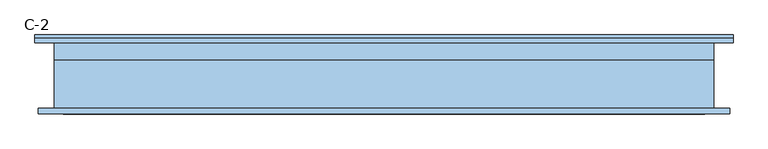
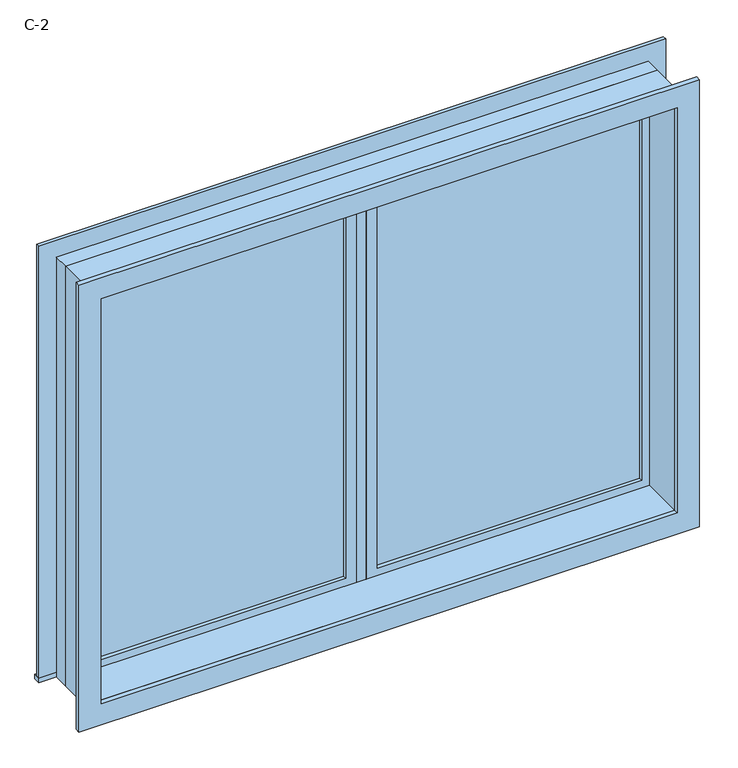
"""IFC4 building model written with IfcOpenShell, lengths in millimetres: window geometry, 双扇平开 - 带贴面 : C-2."""

import ifcopenshell
import ifcopenshell.guid

model = None  # the IFC model being written
_history = None  # IfcOwnerHistory: only IFC2X3 demands one
_inside = {}  # id of a spatial element -> (the spatial element, [elements in it])
_under = {}  # id of a project, library or spatial element -> (it, [spatial elements below it])
_declared = {}  # id of a project -> (the project, [libraries it declares])
_typed = {}  # id of a type object -> (the type object, [elements of that type])
_made_of = {}  # id of a material, layer set ... -> (it, [elements and type objects made of it])


def new_model(schema):
    """Start an empty IFC model of exactly this schema.

    Asked for "IFC4X3", IfcOpenShell would pick the latest addendum, in which some entities
    have other attributes; the version numbers below select the first issue.
    IFC2X3 requires an IfcOwnerHistory on every rooted entity: one is made here for all.
    """
    global model, _history
    if schema == "IFC4X3":
        model = ifcopenshell.file(schema_version=(4, 3, 0, 0))
    else:
        model = ifcopenshell.file(schema=schema)
    _inside.clear()
    _under.clear()
    _declared.clear()
    _typed.clear()
    _made_of.clear()
    _history = None
    if model.schema == "IFC2X3":
        org = make("IfcOrganization", Name="unknown")
        user = make(
            "IfcPersonAndOrganization",
            ThePerson=make("IfcPerson", FamilyName="unknown"),
            TheOrganization=org,
        )
        app = make(
            "IfcApplication",
            ApplicationDeveloper=org,
            Version="unknown",
            ApplicationFullName="unknown",
            ApplicationIdentifier="unknown",
        )
        _history = make(
            "IfcOwnerHistory",
            OwningUser=user,
            OwningApplication=app,
            ChangeAction="ADDED",
            CreationDate=0,
        )
    return model


def make(cls, **values):
    """One entity of the class cls with the attributes given. An attribute that is None is left unset."""
    return model.create_entity(
        cls, **{name: value for name, value in values.items() if value is not None}
    )


def rooted(cls, **values):
    """An entity with a GlobalId (a new one), such as an element, a storey or a relation."""
    return make(cls, GlobalId=ifcopenshell.guid.new(), OwnerHistory=_history, **values)


def si_unit(unit_type, name, prefix=None):
    """IfcSIUnit, for example si_unit("LENGTHUNIT", "METRE", prefix="MILLI")."""
    return make("IfcSIUnit", UnitType=unit_type, Prefix=prefix, Name=name)


def assignment(units):
    """IfcUnitAssignment: the units of a project."""
    return None if units is None else make("IfcUnitAssignment", Units=units)


def point(xyz):
    """IfcCartesianPoint."""
    return None if xyz is None else make("IfcCartesianPoint", Coordinates=xyz)


def direction(xyz):
    """IfcDirection."""
    return None if xyz is None else make("IfcDirection", DirectionRatios=xyz)


def frame(location, z_axis=None, x_axis=None):
    """IfcAxis2Placement3D, a coordinate frame: its origin and axes. An axis left out is left unset."""
    return make(
        "IfcAxis2Placement3D",
        Location=point(location),
        Axis=direction(z_axis),
        RefDirection=direction(x_axis),
    )


def origin():
    """The frame at (0, 0, 0) with its axes left unset."""
    return frame((0.0, 0.0, 0.0))


def place(relative_to, where):
    """IfcLocalPlacement: puts the frame where relative to a parent placement (None: the world)."""
    return make(
        "IfcLocalPlacement", PlacementRelTo=relative_to, RelativePlacement=where
    )


def context(
    kind, dimensions, precision=None, world=None, true_north=None, identifier=None
):
    """IfcGeometricRepresentationContext, for example the 3D "Model" context."""
    return make(
        "IfcGeometricRepresentationContext",
        ContextIdentifier=identifier,
        ContextType=kind,
        CoordinateSpaceDimension=dimensions,
        Precision=precision,
        WorldCoordinateSystem=world,
        TrueNorth=true_north,
    )


def project(units=None, contexts=None):
    """IfcProject with its units and contexts."""
    return rooted(
        "IfcProject",
        Name="project",
        RepresentationContexts=contexts,
        UnitsInContext=assignment(units),
    )


def spatial(cls, under=None, at=None, **own):
    """A site, building, storey or space (cls), placed at a placement, below another one or the project."""
    s = rooted(cls, ObjectPlacement=at, **own)
    if under is not None:
        _under.setdefault(under.id(), (under, []))[1].append(s)
    return s


def polyline(points):
    """IfcPolyline through the points."""
    return make("IfcPolyline", Points=[point(p) for p in points])


def outline(outer, holes=None, kind="AREA"):
    """IfcArbitraryClosedProfileDef: a profile drawn as a closed curve; with holes, ...WithVoids."""
    if holes is None:
        return make("IfcArbitraryClosedProfileDef", ProfileType=kind, OuterCurve=outer)
    return make(
        "IfcArbitraryProfileDefWithVoids",
        ProfileType=kind,
        OuterCurve=outer,
        InnerCurves=holes,
    )


def extrude(swept, where, along, depth):
    """IfcExtrudedAreaSolid: the profile swept, set in the frame where, extruded along a direction by depth."""
    return make(
        "IfcExtrudedAreaSolid",
        SweptArea=swept,
        Position=where,
        ExtrudedDirection=direction(along),
        Depth=depth,
    )


def shape(context_of_items, identifier, shape_type, items):
    """IfcShapeRepresentation: the items that make up one representation, for example the "Body"."""
    return make(
        "IfcShapeRepresentation",
        ContextOfItems=context_of_items,
        RepresentationIdentifier=identifier,
        RepresentationType=shape_type,
        Items=items,
    )


def source(mapping_origin, context_of_items, identifier, shape_type, items):
    """IfcRepresentationMap: a shape defined once, which mapped items show again and again."""
    return make(
        "IfcRepresentationMap",
        MappingOrigin=mapping_origin,
        MappedRepresentation=shape(context_of_items, identifier, shape_type, items),
    )


def transform(
    local_origin,
    x_axis=None,
    y_axis=None,
    z_axis=None,
    scale=None,
    scale2=None,
    scale3=None,
    uniform=True,
):
    """IfcCartesianTransformationOperator3D, or its non-uniform kind. x_axis, y_axis, z_axis: its Axis1, 2, 3."""
    if uniform:
        return make(
            "IfcCartesianTransformationOperator3D",
            Axis1=direction(x_axis),
            Axis2=direction(y_axis),
            LocalOrigin=point(local_origin),
            Scale=scale,
            Axis3=direction(z_axis),
        )
    return make(
        "IfcCartesianTransformationOperator3DnonUniform",
        Axis1=direction(x_axis),
        Axis2=direction(y_axis),
        LocalOrigin=point(local_origin),
        Scale=scale,
        Axis3=direction(z_axis),
        Scale2=scale2,
        Scale3=scale3,
    )


def mapped(mapping_source, mapping_target):
    """IfcMappedItem: shows the shape of a source again, moved by a transform."""
    return make(
        "IfcMappedItem", MappingSource=mapping_source, MappingTarget=mapping_target
    )


def made_of(thing, what):
    """Note that an element or type object is made of a material, layer set ...; save() writes the relation."""
    if what is not None:
        _made_of.setdefault(what.id(), (what, []))[1].append(thing)
    return thing


def element(
    cls,
    number,
    at=None,
    inside=None,
    cuts=None,
    type_object=None,
    material=None,
    context=None,
    identifier="Body",
    shape_type=None,
    held_by="IfcProductDefinitionShape",
    body=None,
    shapes=None,
    **own,
):
    """One element of the class cls, such as IfcWall. Its Tag is "e" and its number.

    at: its placement. inside: the storey or other place that contains it. cuts: it is an
    opening in that element (IfcRelVoidsElement). A single representation is given by context,
    identifier, shape_type and body (its items); several are given by shapes. held_by: the class
    of the entity that holds the representations. save() writes the other relations.
    """
    e = rooted(cls, Tag="e%d" % number, ObjectPlacement=at, **own)
    if body is not None:
        shapes = [shape(context, identifier, shape_type, body)]
    if shapes is not None:
        e.Representation = make(held_by, Representations=shapes)
    if inside is not None:
        _inside.setdefault(inside.id(), (inside, []))[1].append(e)
    if cuts is not None:
        rooted(
            "IfcRelVoidsElement", RelatingBuildingElement=cuts, RelatedOpeningElement=e
        )
    if type_object is not None:
        _typed.setdefault(type_object.id(), (type_object, []))[1].append(e)
    return made_of(e, material)


def aggregate(whole, parts):
    """IfcRelAggregates: a whole, such as a stair, and the parts it consists of."""
    return rooted("IfcRelAggregates", RelatingObject=whole, RelatedObjects=parts)


def save(model, path):
    """Write the relations noted so far, then the file.

    IfcRelAggregates (storeys below a building ...), IfcRelContainedInSpatialStructure (elements
    in a storey), IfcRelDefinesByType, IfcRelAssociatesMaterial and IfcRelDeclares: one each for
    every whole, place, type object, material and project.
    """
    for whole, parts in _under.values():
        aggregate(whole, parts)
    for where, things in _inside.values():
        rooted(
            "IfcRelContainedInSpatialStructure",
            RelatedElements=things,
            RelatingStructure=where,
        )
    for kind, things in _typed.values():
        rooted("IfcRelDefinesByType", RelatedObjects=things, RelatingType=kind)
    for what, things in _made_of.values():
        rooted("IfcRelAssociatesMaterial", RelatedObjects=things, RelatingMaterial=what)
    for by, libraries in _declared.values():
        rooted("IfcRelDeclares", RelatingContext=by, RelatedDefinitions=libraries)
    model.write(path)


def c_2_2cdffc81(model_context):
    return source(origin(), model_context, "Body", "SweptSolid", [
        extrude(outline(polyline([(63.5, 84.125), (1136.5, 84.125), (1136.5, 71.425), (63.5, 71.425), (63.5, 84.125)])), frame((0.0, 0.0, 964.5), z_axis=(0.0, 0.0, 1.0), x_axis=(1.0, 0.0, 0.0)), (0.0, 0.0, 1.0), 1673.0),
        extrude(outline(polyline([(2681.95, 19.05), (920.05, 19.05), (920.05, 1180.95), (2681.95, 1180.95), (2681.95, 19.05)]), holes=[polyline([(2637.5, 63.5), (2637.5, 1136.5), (964.5, 1136.5), (964.5, 63.5), (2637.5, 63.5)])]), frame((0.0, 55.55, 0.0), z_axis=(0.0, 1.0, 0.0), x_axis=(0.0, 0.0, 1.0)), (0.0, 0.0, 1.0), 44.45),
        extrude(outline(polyline([(19.05, 55.55), (-19.05, 55.55), (-19.05, 119.05), (19.05, 119.05), (19.05, 55.55)])), frame((0.0, 0.0, 920.05), z_axis=(0.0, 0.0, 1.0), x_axis=(1.0, 0.0, 0.0)), (0.0, 0.0, 1.0), 1761.9),
        extrude(outline(polyline([(-63.5, 71.425), (-1136.5, 71.425), (-1136.5, 84.125), (-63.5, 84.125), (-63.5, 71.425)])), frame((0.0, 0.0, 964.5), z_axis=(0.0, 0.0, 1.0), x_axis=(1.0, 0.0, 0.0)), (0.0, 0.0, 1.0), 1673.0),
        extrude(outline(polyline([(2681.95, -1180.95), (920.05, -1180.95), (920.05, -19.05), (2681.95, -19.05), (2681.95, -1180.95)]), holes=[polyline([(2637.5, -1136.5), (2637.5, -63.5), (964.5, -63.5), (964.5, -1136.5), (2637.5, -1136.5)])]), frame((0.0, 55.55, 0.0), z_axis=(0.0, 1.0, 0.0), x_axis=(0.0, 0.0, 1.0)), (0.0, 0.0, 1.0), 44.45),
        extrude(outline(polyline([(2701.0, -1200.0), (901.0, -1200.0), (901.0, 1200.0), (2701.0, 1200.0), (2701.0, -1200.0)]), holes=[polyline([(2669.25, -1168.25), (2669.25, 1168.25), (932.75, 1168.25), (932.75, -1168.25), (2669.25, -1168.25)])]), frame((0.0, -120.0, 0.0), z_axis=(0.0, 1.0, 0.0), x_axis=(0.0, 0.0, 1.0)), (0.0, 0.0, 1.0), 175.55),
        extrude(outline(polyline([(2701.0, 1200.0), (2701.0, -1200.0), (901.0, -1200.0), (901.0, 1200.0), (2701.0, 1200.0)]), holes=[polyline([(2681.95, 1180.95), (920.05, 1180.95), (920.05, -1180.95), (2681.95, -1180.95), (2681.95, 1180.95)])]), frame((0.0, 55.55, 0.0), z_axis=(0.0, 1.0, 0.0), x_axis=(0.0, 0.0, 1.0)), (0.0, 0.0, 1.0), 64.45),
        extrude(outline(polyline([(-1270.95, 147.7), (1270.95, 147.7), (1270.95, 120.0), (-1270.95, 120.0), (-1270.95, 147.7)])), frame((0.0, 0.0, 901.0), z_axis=(0.0, 0.0, 1.0), x_axis=(1.0, 0.0, 0.0)), (0.0, 0.0, 1.0), 19.05),
        extrude(outline(polyline([(2681.95, -1180.95), (2681.95, 1180.95), (920.05, 1180.95), (920.05, 1270.95), (2771.95, 1270.95), (2771.95, -1270.95), (920.05, -1270.95), (920.05, -1180.95), (2681.95, -1180.95)])), frame((0.0, 120.0, 0.0), z_axis=(0.0, 1.0, 0.0), x_axis=(0.0, 0.0, 1.0)), (0.0, 0.0, 1.0), 15.0),
        extrude(outline(polyline([(2759.25, 1258.25), (2759.25, -1258.25), (842.75, -1258.25), (842.75, 1258.25), (2759.25, 1258.25)]), holes=[polyline([(2669.25, 1168.25), (932.75, 1168.25), (932.75, -1168.25), (2669.25, -1168.25), (2669.25, 1168.25)])]), frame((0.0, -140.0, 0.0), z_axis=(0.0, 1.0, 0.0), x_axis=(0.0, 0.0, 1.0)), (0.0, 0.0, 1.0), 20.0),
    ])


if __name__ == "__main__":
    model = new_model("IFC4")
    model_context = context("Model", 3, world=origin())
    ifc_project = project(units=[si_unit("LENGTHUNIT", "METRE", prefix="MILLI")], contexts=[model_context])
    site = spatial("IfcSite", under=ifc_project)
    building = spatial("IfcBuilding", under=site)
    placement = place(None, origin())
    c_2_shape = c_2_2cdffc81(model_context)
    element("IfcWindow", 1, ObjectType="双扇平开 - 带贴面 : C-2", at=placement, inside=building, context=model_context, shape_type="MappedRepresentation", body=[
        mapped(c_2_shape, transform((0.0, 0.0, 0.0), x_axis=(1.0, 0.0, 0.0), y_axis=(0.0, 1.0, 0.0), z_axis=(0.0, 0.0, 1.0))),
    ])
    save(model, "model.ifc")
